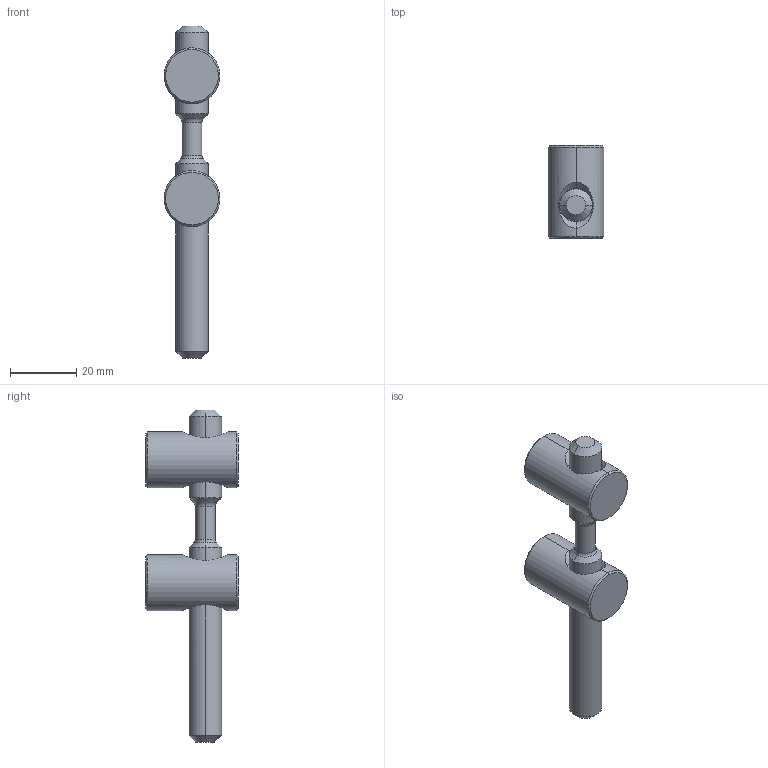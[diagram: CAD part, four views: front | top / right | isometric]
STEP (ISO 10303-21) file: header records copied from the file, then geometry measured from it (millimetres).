
FILE_DESCRIPTION (( 'STEP AP214' ), '1' );
FILE_NAME ('099b1017s01.STEP', '2014-01-16T10:38:12', ( '' ), ( '' ), 'SwSTEP 2.0', 'SolidWorks 2012', '' );
FILE_SCHEMA (( 'AUTOMOTIVE_DESIGN' ));
Length unit declared in the file: millimetre
Products named in the file (4): 4DIN914M1214MS01_Standard; 099b10171000R01_Standard; 099b1017s01R02_Standard; 099b1017s01
Assembly tree (5 placements, depth 2):
  099b1017s01
    099b1017s01R02_Standard
    099b10171000R01_Standard  x2
    4DIN914M1214MS01_Standard  x2
Bounding box: 16.85 x 28 x 100 mm (x, y, z)
Volume: 15457.6 mm3; surface area: 9892.3 mm2
Topology: 5 solids, 5 shells, 138 faces, 336 edges, 202 vertices
Faces by surface type: cylinder 48, cone 44, plane 36, bspline 6, torus 4
Entity records: 5388 total; most frequent: CARTESIAN_POINT 3478, ORIENTED_EDGE 378, DIRECTION 350, EDGE_CURVE 189, AXIS2_PLACEMENT_3D 133, VERTEX_POINT 114, EDGE_LOOP 85, LINE 84
